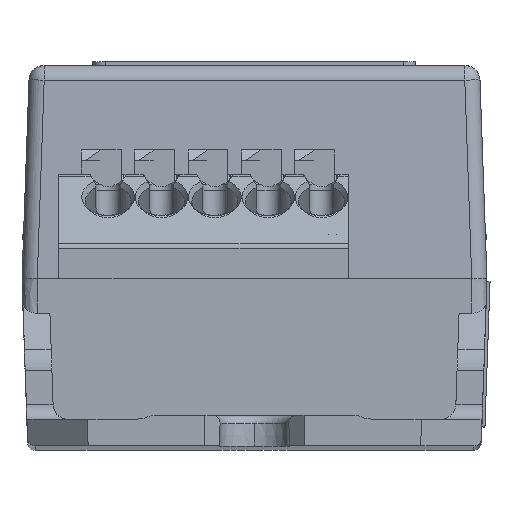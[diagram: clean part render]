
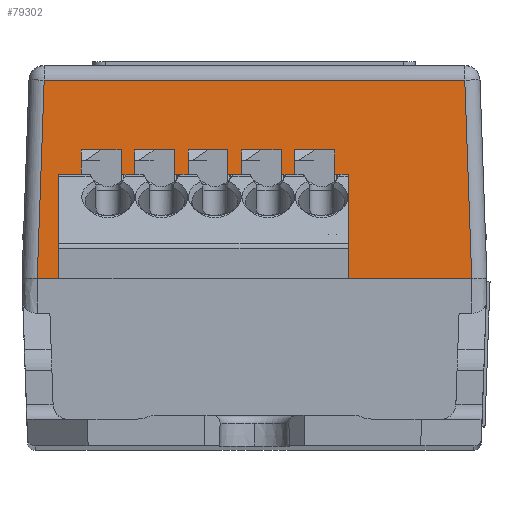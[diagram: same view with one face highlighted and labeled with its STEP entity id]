
A CAD part, top view. The second image highlights one B-rep face of the part: STEP entity #79302.
In plain terms, the highlighted planar face has unit normal (0, 0.035, 0.999).
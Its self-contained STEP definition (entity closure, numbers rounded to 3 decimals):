
#2363 = DIRECTION ( 'NONE',  ( -0.035, 0.999, -0.035 ) ) ;
#3801 = VECTOR ( 'NONE', #2363, 1000. ) ;
#4159 = VERTEX_POINT ( 'NONE', #26320 ) ;
#4260 = EDGE_CURVE ( 'NONE', #40837, #67691, #35067, .T. ) ;
#4878 = EDGE_CURVE ( 'NONE', #49658, #70708, #16192, .T. ) ;
#6792 = DIRECTION ( 'NONE',  ( -1., 0., 0. ) ) ;
#6873 = CARTESIAN_POINT ( 'NONE',  ( 6.615, 16.103, 58.868 ) ) ;
#10721 = ORIENTED_EDGE ( 'NONE', *, *, #4260, .T. ) ;
#10780 = DIRECTION ( 'NONE',  ( 0.725, -0.688, 0.024 ) ) ;
#11705 = VECTOR ( 'NONE', #20686, 1000. ) ;
#12678 = ORIENTED_EDGE ( 'NONE', *, *, #14304, .T. ) ;
#13647 = ORIENTED_EDGE ( 'NONE', *, *, #66937, .T. ) ;
#14304 = EDGE_CURVE ( 'NONE', #95104, #60455, #80109, .T. ) ;
#16192 = LINE ( 'NONE', #6873, #3801 ) ;
#16779 = CARTESIAN_POINT ( 'NONE',  ( 14.251, 15.175, 58.9 ) ) ;
#17537 = CARTESIAN_POINT ( 'NONE',  ( -13.795, 28.21, 58.445 ) ) ;
#18781 = ORIENTED_EDGE ( 'NONE', *, *, #73331, .F. ) ;
#20538 = CARTESIAN_POINT ( 'NONE',  ( -10.32, 11.76, 59.019 ) ) ;
#20686 = DIRECTION ( 'NONE',  ( 0.731, 0.682, -0.024 ) ) ;
#21337 = CARTESIAN_POINT ( 'NONE',  ( -10.875, 10.725, 59.055 ) ) ;
#21510 = VECTOR ( 'NONE', #79043, 1000. ) ;
#21558 = CARTESIAN_POINT ( 'NONE',  ( -8.234, 13.188, 58.969 ) ) ;
#21797 = VERTEX_POINT ( 'NONE', #111705 ) ;
#22718 = VERTEX_POINT ( 'NONE', #50677 ) ;
#22775 = ORIENTED_EDGE ( 'NONE', *, *, #34768, .T. ) ;
#22854 = VERTEX_POINT ( 'NONE', #17537 ) ;
#23550 = ORIENTED_EDGE ( 'NONE', *, *, #111060, .T. ) ;
#23856 = VECTOR ( 'NONE', #66486, 1000. ) ;
#25151 = VERTEX_POINT ( 'NONE', #100277 ) ;
#25233 = EDGE_CURVE ( 'NONE', #4159, #103805, #92903, .T. ) ;
#26320 = CARTESIAN_POINT ( 'NONE',  ( -13.218, 15.175, 58.9 ) ) ;
#26967 = LINE ( 'NONE', #41589, #94403 ) ;
#27751 =( BOUNDED_CURVE ( )  B_SPLINE_CURVE ( 3, ( #51221, #94958, #103786, #112629 ),
 .UNSPECIFIED., .F., .F. ) 
 B_SPLINE_CURVE_WITH_KNOTS ( ( 4, 4 ),
 ( 3.142, 3.63 ),
 .UNSPECIFIED. ) 
 CURVE ( )  GEOMETRIC_REPRESENTATION_ITEM ( )  RATIONAL_B_SPLINE_CURVE ( ( 1., 0.98, 0.98, 1. ) ) 
 REPRESENTATION_ITEM ( '' )  );
#27978 = DIRECTION ( 'NONE',  ( 1., 0., 0. ) ) ;
#28569 = ORIENTED_EDGE ( 'NONE', *, *, #48113, .F. ) ;
#29279 = CARTESIAN_POINT ( 'NONE',  ( -9.891, 12.725, 58.986 ) ) ;
#30235 = ORIENTED_EDGE ( 'NONE', *, *, #76808, .T. ) ;
#32200 = EDGE_CURVE ( 'NONE', #22718, #40837, #61769, .T. ) ;
#32318 = CARTESIAN_POINT ( 'NONE',  ( -20., 15.175, 58.9 ) ) ;
#33309 = VECTOR ( 'NONE', #33308, 1000. ) ;
#33308 = DIRECTION ( 'NONE',  ( 1., 0., 0. ) ) ;
#34459 = LINE ( 'NONE', #109754, #49588 ) ;
#34768 = EDGE_CURVE ( 'NONE', #21797, #22854, #26967, .T. ) ;
#35067 = LINE ( 'NONE', #21558, #11705 ) ;
#35069 = CARTESIAN_POINT ( 'NONE',  ( 6.737, 12.608, 58.99 ) ) ;
#35080 = CARTESIAN_POINT ( 'NONE',  ( -20., 12.725, 58.986 ) ) ;
#36854 = EDGE_CURVE ( 'NONE', #60455, #49658, #27751, .T. ) ;
#37572 = ORIENTED_EDGE ( 'NONE', *, *, #105812, .T. ) ;
#39549 = LINE ( 'NONE', #68386, #60318 ) ;
#40837 = VERTEX_POINT ( 'NONE', #21337 ) ;
#41589 = CARTESIAN_POINT ( 'NONE',  ( -20., 28.21, 58.445 ) ) ;
#43568 = FACE_OUTER_BOUND ( 'NONE', #99403, .T. ) ;
#45243 = ORIENTED_EDGE ( 'NONE', *, *, #52293, .F. ) ;
#47303 = LINE ( 'NONE', #57646, #23856 ) ;
#48113 = EDGE_CURVE ( 'NONE', #56685, #4159, #74343, .T. ) ;
#48311 = DIRECTION ( 'NONE',  ( -0.035, -0.999, 0.035 ) ) ;
#49588 = VECTOR ( 'NONE', #48311, 1000. ) ;
#49658 = VERTEX_POINT ( 'NONE', #35069 ) ;
#50480 = DIRECTION ( 'NONE',  ( -1., 0., 0. ) ) ;
#50677 = CARTESIAN_POINT ( 'NONE',  ( -12.588, 10.725, 59.055 ) ) ;
#51221 = CARTESIAN_POINT ( 'NONE',  ( 6.268, 12.725, 58.986 ) ) ;
#52293 = EDGE_CURVE ( 'NONE', #106348, #25151, #91647, .T. ) ;
#52482 = LINE ( 'NONE', #63555, #99142 ) ;
#52728 = CARTESIAN_POINT ( 'NONE',  ( -10.339, 11.225, 59.038 ) ) ;
#53935 = DIRECTION ( 'NONE',  ( -0.035, 0.999, -0.035 ) ) ;
#55930 = AXIS2_PLACEMENT_3D ( 'NONE', #32318, #84964, #111525 ) ;
#56685 = VERTEX_POINT ( 'NONE', #62712 ) ;
#56812 = VERTEX_POINT ( 'NONE', #99495 ) ;
#56904 = LINE ( 'NONE', #101745, #77418 ) ;
#56956 = EDGE_CURVE ( 'NONE', #92713, #25151, #56904, .T. ) ;
#57646 = CARTESIAN_POINT ( 'NONE',  ( -10.213, 14.834, 58.912 ) ) ;
#59026 = CARTESIAN_POINT ( 'NONE',  ( 6.715, 13.225, 58.968 ) ) ;
#60318 = VECTOR ( 'NONE', #6792, 1000. ) ;
#60415 = DIRECTION ( 'NONE',  ( -0.035, 0.999, -0.035 ) ) ;
#60455 = VERTEX_POINT ( 'NONE', #106834 ) ;
#60706 = CARTESIAN_POINT ( 'NONE',  ( -9.321, 12.725, 58.986 ) ) ;
#61769 = LINE ( 'NONE', #80684, #70019 ) ;
#62070 = EDGE_CURVE ( 'NONE', #56685, #22718, #52482, .T. ) ;
#62712 = CARTESIAN_POINT ( 'NONE',  ( -13.079, 11.191, 59.039 ) ) ;
#63555 = CARTESIAN_POINT ( 'NONE',  ( -12.732, 10.862, 59.051 ) ) ;
#64307 = ORIENTED_EDGE ( 'NONE', *, *, #32200, .T. ) ;
#66250 = CARTESIAN_POINT ( 'NONE',  ( 13.167, 13.225, 58.968 ) ) ;
#66486 = DIRECTION ( 'NONE',  ( 0.035, 0.999, -0.035 ) ) ;
#66937 = EDGE_CURVE ( 'NONE', #56812, #95104, #81804, .T. ) ;
#67401 = CARTESIAN_POINT ( 'NONE',  ( -14.251, 15.175, 58.9 ) ) ;
#67691 = VERTEX_POINT ( 'NONE', #52728 ) ;
#68386 = CARTESIAN_POINT ( 'NONE',  ( -20., 13.225, 58.968 ) ) ;
#69304 = ORIENTED_EDGE ( 'NONE', *, *, #56956, .T. ) ;
#69594 = CARTESIAN_POINT ( 'NONE',  ( 14.209, 16.368, 58.858 ) ) ;
#70019 = VECTOR ( 'NONE', #27978, 1000. ) ;
#70708 = VERTEX_POINT ( 'NONE', #59026 ) ;
#73204 = CARTESIAN_POINT ( 'NONE',  ( -10.3, 12.329, 58.999 ) ) ;
#73331 = EDGE_CURVE ( 'NONE', #92713, #70708, #39549, .T. ) ;
#74343 = LINE ( 'NONE', #105739, #94987 ) ;
#76808 = EDGE_CURVE ( 'NONE', #67691, #56812, #47303, .T. ) ;
#77418 = VECTOR ( 'NONE', #92939, 1000. ) ;
#79043 = DIRECTION ( 'NONE',  ( -1., 0., 0. ) ) ;
#79302 = ADVANCED_FACE ( 'NONE', ( #43568 ), #102653, .T. ) ;
#80109 = LINE ( 'NONE', #35080, #33309 ) ;
#80684 = CARTESIAN_POINT ( 'NONE',  ( -18.245, 10.725, 59.055 ) ) ;
#81804 =( BOUNDED_CURVE ( )  B_SPLINE_CURVE ( 3, ( #20538, #73204, #29279, #90859 ),
 .UNSPECIFIED., .F., .F. ) 
 B_SPLINE_CURVE_WITH_KNOTS ( ( 4, 4 ),
 ( 4.747, 6.283 ),
 .UNSPECIFIED. ) 
 CURVE ( )  GEOMETRIC_REPRESENTATION_ITEM ( )  RATIONAL_B_SPLINE_CURVE ( ( 1., 0.813, 0.813, 1. ) ) 
 REPRESENTATION_ITEM ( '' )  );
#84964 = DIRECTION ( 'NONE',  ( 0., 0.035, 0.999 ) ) ;
#90859 = CARTESIAN_POINT ( 'NONE',  ( -9.321, 12.725, 58.986 ) ) ;
#91629 = LINE ( 'NONE', #69594, #112256 ) ;
#91647 = LINE ( 'NONE', #96340, #21510 ) ;
#92595 = CARTESIAN_POINT ( 'NONE',  ( -20., 15.175, 58.9 ) ) ;
#92713 = VERTEX_POINT ( 'NONE', #66250 ) ;
#92903 = LINE ( 'NONE', #92595, #113516 ) ;
#92939 = DIRECTION ( 'NONE',  ( 0.026, 0.999, -0.035 ) ) ;
#94320 = ORIENTED_EDGE ( 'NONE', *, *, #62070, .T. ) ;
#94403 = VECTOR ( 'NONE', #50480, 1000. ) ;
#94958 = CARTESIAN_POINT ( 'NONE',  ( 6.432, 12.725, 58.986 ) ) ;
#94987 = VECTOR ( 'NONE', #53935, 1000. ) ;
#95104 = VERTEX_POINT ( 'NONE', #60706 ) ;
#96340 = CARTESIAN_POINT ( 'NONE',  ( -20., 15.175, 58.9 ) ) ;
#99142 = VECTOR ( 'NONE', #10780, 1000. ) ;
#99403 = EDGE_LOOP ( 'NONE', ( #100915, #112516, #18781, #69304, #45243, #37572, #22775, #23550, #106249, #28569, #94320, #64307, #10721, #30235, #13647, #12678 ) ) ;
#99495 = CARTESIAN_POINT ( 'NONE',  ( -10.32, 11.76, 59.019 ) ) ;
#100277 = CARTESIAN_POINT ( 'NONE',  ( 13.218, 15.175, 58.9 ) ) ;
#100915 = ORIENTED_EDGE ( 'NONE', *, *, #36854, .T. ) ;
#101391 = DIRECTION ( 'NONE',  ( -1., 0., 0. ) ) ;
#101745 = CARTESIAN_POINT ( 'NONE',  ( 13.222, 15.306, 58.895 ) ) ;
#102653 = PLANE ( 'NONE',  #55930 ) ;
#103786 = CARTESIAN_POINT ( 'NONE',  ( 6.592, 12.685, 58.987 ) ) ;
#103805 = VERTEX_POINT ( 'NONE', #67401 ) ;
#105739 = CARTESIAN_POINT ( 'NONE',  ( -13.203, 14.753, 58.915 ) ) ;
#105812 = EDGE_CURVE ( 'NONE', #106348, #21797, #91629, .T. ) ;
#106249 = ORIENTED_EDGE ( 'NONE', *, *, #25233, .F. ) ;
#106348 = VERTEX_POINT ( 'NONE', #16779 ) ;
#106834 = CARTESIAN_POINT ( 'NONE',  ( 6.268, 12.725, 58.986 ) ) ;
#109754 = CARTESIAN_POINT ( 'NONE',  ( -14.258, 14.975, 58.907 ) ) ;
#111060 = EDGE_CURVE ( 'NONE', #22854, #103805, #34459, .T. ) ;
#111525 = DIRECTION ( 'NONE',  ( 0., -0.999, 0.035 ) ) ;
#111705 = CARTESIAN_POINT ( 'NONE',  ( 13.795, 28.21, 58.445 ) ) ;
#112256 = VECTOR ( 'NONE', #60415, 1000. ) ;
#112516 = ORIENTED_EDGE ( 'NONE', *, *, #4878, .T. ) ;
#112629 = CARTESIAN_POINT ( 'NONE',  ( 6.737, 12.608, 58.99 ) ) ;
#113516 = VECTOR ( 'NONE', #101391, 1000. ) ;
